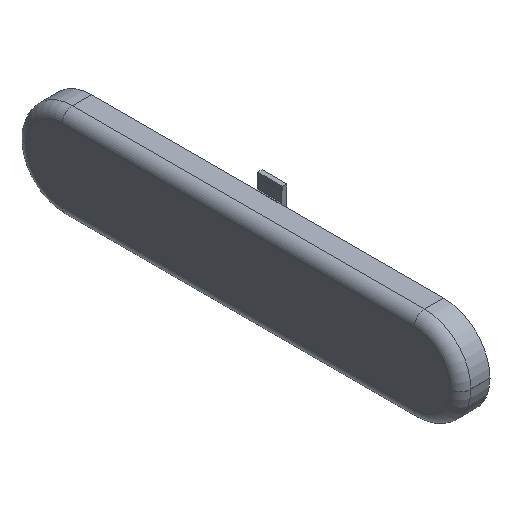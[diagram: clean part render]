
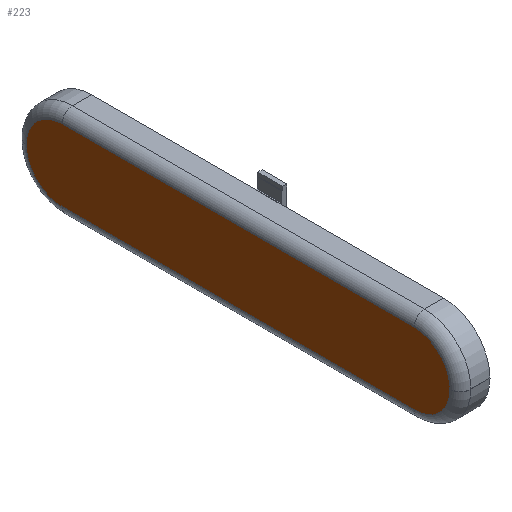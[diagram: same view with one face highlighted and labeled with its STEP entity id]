
A CAD part, isometric view. The second image highlights one B-rep face of the part: STEP entity #223.
In plain terms, the highlighted planar face has unit normal (-1, 0, 0).
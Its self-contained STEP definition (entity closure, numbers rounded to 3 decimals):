
#24 = VERTEX_POINT('',#25);
#25 = CARTESIAN_POINT('',(-46.8,28.51,5.8));
#33 = CYLINDRICAL_SURFACE('',#34,1.7);
#34 = AXIS2_PLACEMENT_3D('',#35,#36,#37);
#35 = CARTESIAN_POINT('',(-45.1,14.255,5.8));
#36 = DIRECTION('',(0.,-1.,0.));
#37 = DIRECTION('',(-0.707,0.,0.707));
#45 = TOROIDAL_SURFACE('',#46,5.79,1.7);
#46 = AXIS2_PLACEMENT_3D('',#47,#48,#49);
#47 = CARTESIAN_POINT('',(-45.1,28.51,0.01));
#48 = DIRECTION('',(1.,0.,0.));
#49 = DIRECTION('',(0.,0.,-1.));
#57 = EDGE_CURVE('',#24,#58,#60,.T.);
#58 = VERTEX_POINT('',#59);
#59 = CARTESIAN_POINT('',(-46.8,-28.51,5.8));
#60 = SURFACE_CURVE('',#61,(#65,#72),.PCURVE_S1.);
#61 = LINE('',#62,#63);
#62 = CARTESIAN_POINT('',(-46.8,14.255,5.8));
#63 = VECTOR('',#64,1.);
#64 = DIRECTION('',(0.,-1.,0.));
#65 = PCURVE('',#33,#66);
#66 = DEFINITIONAL_REPRESENTATION('',(#67),#71);
#67 = LINE('',#68,#69);
#68 = CARTESIAN_POINT('',(7.069,0.));
#69 = VECTOR('',#70,1.);
#70 = DIRECTION('',(0.,1.));
#71 = ( GEOMETRIC_REPRESENTATION_CONTEXT(2) 
PARAMETRIC_REPRESENTATION_CONTEXT() REPRESENTATION_CONTEXT('2D SPACE',''
  ) );
#72 = PCURVE('',#73,#78);
#73 = PLANE('',#74);
#74 = AXIS2_PLACEMENT_3D('',#75,#76,#77);
#75 = CARTESIAN_POINT('',(-46.8,0.,0.));
#76 = DIRECTION('',(1.,0.,0.));
#77 = DIRECTION('',(0.,0.,-1.));
#78 = DEFINITIONAL_REPRESENTATION('',(#79),#83);
#79 = LINE('',#80,#81);
#80 = CARTESIAN_POINT('',(-5.8,14.255));
#81 = VECTOR('',#82,1.);
#82 = DIRECTION('',(0.,-1.));
#83 = ( GEOMETRIC_REPRESENTATION_CONTEXT(2) 
PARAMETRIC_REPRESENTATION_CONTEXT() REPRESENTATION_CONTEXT('2D SPACE',''
  ) );
#102 = TOROIDAL_SURFACE('',#103,5.79,1.7);
#103 = AXIS2_PLACEMENT_3D('',#104,#105,#106);
#104 = CARTESIAN_POINT('',(-45.1,-28.51,0.01));
#105 = DIRECTION('',(1.,0.,0.));
#106 = DIRECTION('',(0.,0.,-1.));
#174 = VERTEX_POINT('',#175);
#175 = CARTESIAN_POINT('',(-46.8,34.3,0.01));
#190 = CYLINDRICAL_SURFACE('',#191,1.7);
#191 = AXIS2_PLACEMENT_3D('',#192,#193,#194);
#192 = CARTESIAN_POINT('',(-45.1,34.3,-0.005));
#193 = DIRECTION('',(0.,0.,1.));
#194 = DIRECTION('',(-0.707,0.707,0.));
#202 = EDGE_CURVE('',#174,#24,#203,.T.);
#203 = SURFACE_CURVE('',#204,(#209,#216),.PCURVE_S1.);
#204 = CIRCLE('',#205,5.79);
#205 = AXIS2_PLACEMENT_3D('',#206,#207,#208);
#206 = CARTESIAN_POINT('',(-46.8,28.51,0.01));
#207 = DIRECTION('',(1.,0.,0.));
#208 = DIRECTION('',(-0.,0.707,0.707));
#209 = PCURVE('',#45,#210);
#210 = DEFINITIONAL_REPRESENTATION('',(#211),#215);
#211 = LINE('',#212,#213);
#212 = CARTESIAN_POINT('',(-3.927,4.712));
#213 = VECTOR('',#214,1.);
#214 = DIRECTION('',(1.,0.));
#215 = ( GEOMETRIC_REPRESENTATION_CONTEXT(2) 
PARAMETRIC_REPRESENTATION_CONTEXT() REPRESENTATION_CONTEXT('2D SPACE',''
  ) );
#216 = PCURVE('',#73,#217);
#217 = DEFINITIONAL_REPRESENTATION('',(#218),#222);
#218 = CIRCLE('',#219,5.79);
#219 = AXIS2_PLACEMENT_2D('',#220,#221);
#220 = CARTESIAN_POINT('',(-0.01,28.51));
#221 = DIRECTION('',(-0.707,0.707));
#222 = ( GEOMETRIC_REPRESENTATION_CONTEXT(2) 
PARAMETRIC_REPRESENTATION_CONTEXT() REPRESENTATION_CONTEXT('2D SPACE',''
  ) );
#223 = ADVANCED_FACE('',(#224),#73,.F.);
#224 = FACE_BOUND('',#225,.T.);
#225 = EDGE_LOOP('',(#226,#227,#228,#251,#280,#308,#337,#365));
#226 = ORIENTED_EDGE('',*,*,#57,.F.);
#227 = ORIENTED_EDGE('',*,*,#202,.F.);
#228 = ORIENTED_EDGE('',*,*,#229,.F.);
#229 = EDGE_CURVE('',#230,#174,#232,.T.);
#230 = VERTEX_POINT('',#231);
#231 = CARTESIAN_POINT('',(-46.8,34.3,-0.01));
#232 = SURFACE_CURVE('',#233,(#237,#244),.PCURVE_S1.);
#233 = LINE('',#234,#235);
#234 = CARTESIAN_POINT('',(-46.8,34.3,-0.005));
#235 = VECTOR('',#236,1.);
#236 = DIRECTION('',(0.,0.,1.));
#237 = PCURVE('',#73,#238);
#238 = DEFINITIONAL_REPRESENTATION('',(#239),#243);
#239 = LINE('',#240,#241);
#240 = CARTESIAN_POINT('',(0.005,34.3));
#241 = VECTOR('',#242,1.);
#242 = DIRECTION('',(-1.,0.));
#243 = ( GEOMETRIC_REPRESENTATION_CONTEXT(2) 
PARAMETRIC_REPRESENTATION_CONTEXT() REPRESENTATION_CONTEXT('2D SPACE',''
  ) );
#244 = PCURVE('',#190,#245);
#245 = DEFINITIONAL_REPRESENTATION('',(#246),#250);
#246 = LINE('',#247,#248);
#247 = CARTESIAN_POINT('',(7.069,0.));
#248 = VECTOR('',#249,1.);
#249 = DIRECTION('',(0.,1.));
#250 = ( GEOMETRIC_REPRESENTATION_CONTEXT(2) 
PARAMETRIC_REPRESENTATION_CONTEXT() REPRESENTATION_CONTEXT('2D SPACE',''
  ) );
#251 = ORIENTED_EDGE('',*,*,#252,.F.);
#252 = EDGE_CURVE('',#253,#230,#255,.T.);
#253 = VERTEX_POINT('',#254);
#254 = CARTESIAN_POINT('',(-46.8,28.51,-5.8));
#255 = SURFACE_CURVE('',#256,(#261,#268),.PCURVE_S1.);
#256 = CIRCLE('',#257,5.79);
#257 = AXIS2_PLACEMENT_3D('',#258,#259,#260);
#258 = CARTESIAN_POINT('',(-46.8,28.51,-0.01));
#259 = DIRECTION('',(1.,0.,0.));
#260 = DIRECTION('',(0.,0.707,-0.707));
#261 = PCURVE('',#73,#262);
#262 = DEFINITIONAL_REPRESENTATION('',(#263),#267);
#263 = CIRCLE('',#264,5.79);
#264 = AXIS2_PLACEMENT_2D('',#265,#266);
#265 = CARTESIAN_POINT('',(0.01,28.51));
#266 = DIRECTION('',(0.707,0.707));
#267 = ( GEOMETRIC_REPRESENTATION_CONTEXT(2) 
PARAMETRIC_REPRESENTATION_CONTEXT() REPRESENTATION_CONTEXT('2D SPACE',''
  ) );
#268 = PCURVE('',#269,#274);
#269 = TOROIDAL_SURFACE('',#270,5.79,1.7);
#270 = AXIS2_PLACEMENT_3D('',#271,#272,#273);
#271 = CARTESIAN_POINT('',(-45.1,28.51,-0.01));
#272 = DIRECTION('',(1.,0.,0.));
#273 = DIRECTION('',(0.,0.,-1.));
#274 = DEFINITIONAL_REPRESENTATION('',(#275),#279);
#275 = LINE('',#276,#277);
#276 = CARTESIAN_POINT('',(-5.498,4.712));
#277 = VECTOR('',#278,1.);
#278 = DIRECTION('',(1.,0.));
#279 = ( GEOMETRIC_REPRESENTATION_CONTEXT(2) 
PARAMETRIC_REPRESENTATION_CONTEXT() REPRESENTATION_CONTEXT('2D SPACE',''
  ) );
#280 = ORIENTED_EDGE('',*,*,#281,.F.);
#281 = EDGE_CURVE('',#282,#253,#284,.T.);
#282 = VERTEX_POINT('',#283);
#283 = CARTESIAN_POINT('',(-46.8,-28.51,-5.8));
#284 = SURFACE_CURVE('',#285,(#289,#296),.PCURVE_S1.);
#285 = LINE('',#286,#287);
#286 = CARTESIAN_POINT('',(-46.8,-14.255,-5.8));
#287 = VECTOR('',#288,1.);
#288 = DIRECTION('',(0.,1.,0.));
#289 = PCURVE('',#73,#290);
#290 = DEFINITIONAL_REPRESENTATION('',(#291),#295);
#291 = LINE('',#292,#293);
#292 = CARTESIAN_POINT('',(5.8,-14.255));
#293 = VECTOR('',#294,1.);
#294 = DIRECTION('',(0.,1.));
#295 = ( GEOMETRIC_REPRESENTATION_CONTEXT(2) 
PARAMETRIC_REPRESENTATION_CONTEXT() REPRESENTATION_CONTEXT('2D SPACE',''
  ) );
#296 = PCURVE('',#297,#302);
#297 = CYLINDRICAL_SURFACE('',#298,1.7);
#298 = AXIS2_PLACEMENT_3D('',#299,#300,#301);
#299 = CARTESIAN_POINT('',(-45.1,-14.255,-5.8));
#300 = DIRECTION('',(0.,1.,0.));
#301 = DIRECTION('',(-0.707,0.,-0.707));
#302 = DEFINITIONAL_REPRESENTATION('',(#303),#307);
#303 = LINE('',#304,#305);
#304 = CARTESIAN_POINT('',(7.069,0.));
#305 = VECTOR('',#306,1.);
#306 = DIRECTION('',(0.,1.));
#307 = ( GEOMETRIC_REPRESENTATION_CONTEXT(2) 
PARAMETRIC_REPRESENTATION_CONTEXT() REPRESENTATION_CONTEXT('2D SPACE',''
  ) );
#308 = ORIENTED_EDGE('',*,*,#309,.F.);
#309 = EDGE_CURVE('',#310,#282,#312,.T.);
#310 = VERTEX_POINT('',#311);
#311 = CARTESIAN_POINT('',(-46.8,-34.3,-0.01));
#312 = SURFACE_CURVE('',#313,(#318,#325),.PCURVE_S1.);
#313 = CIRCLE('',#314,5.79);
#314 = AXIS2_PLACEMENT_3D('',#315,#316,#317);
#315 = CARTESIAN_POINT('',(-46.8,-28.51,-0.01));
#316 = DIRECTION('',(1.,0.,0.));
#317 = DIRECTION('',(0.,-0.707,-0.707));
#318 = PCURVE('',#73,#319);
#319 = DEFINITIONAL_REPRESENTATION('',(#320),#324);
#320 = CIRCLE('',#321,5.79);
#321 = AXIS2_PLACEMENT_2D('',#322,#323);
#322 = CARTESIAN_POINT('',(0.01,-28.51));
#323 = DIRECTION('',(0.707,-0.707));
#324 = ( GEOMETRIC_REPRESENTATION_CONTEXT(2) 
PARAMETRIC_REPRESENTATION_CONTEXT() REPRESENTATION_CONTEXT('2D SPACE',''
  ) );
#325 = PCURVE('',#326,#331);
#326 = TOROIDAL_SURFACE('',#327,5.79,1.7);
#327 = AXIS2_PLACEMENT_3D('',#328,#329,#330);
#328 = CARTESIAN_POINT('',(-45.1,-28.51,-0.01));
#329 = DIRECTION('',(1.,0.,0.));
#330 = DIRECTION('',(0.,0.,-1.));
#331 = DEFINITIONAL_REPRESENTATION('',(#332),#336);
#332 = LINE('',#333,#334);
#333 = CARTESIAN_POINT('',(-0.785,4.712));
#334 = VECTOR('',#335,1.);
#335 = DIRECTION('',(1.,0.));
#336 = ( GEOMETRIC_REPRESENTATION_CONTEXT(2) 
PARAMETRIC_REPRESENTATION_CONTEXT() REPRESENTATION_CONTEXT('2D SPACE',''
  ) );
#337 = ORIENTED_EDGE('',*,*,#338,.F.);
#338 = EDGE_CURVE('',#339,#310,#341,.T.);
#339 = VERTEX_POINT('',#340);
#340 = CARTESIAN_POINT('',(-46.8,-34.3,0.01));
#341 = SURFACE_CURVE('',#342,(#346,#353),.PCURVE_S1.);
#342 = LINE('',#343,#344);
#343 = CARTESIAN_POINT('',(-46.8,-34.3,0.005));
#344 = VECTOR('',#345,1.);
#345 = DIRECTION('',(0.,0.,-1.));
#346 = PCURVE('',#73,#347);
#347 = DEFINITIONAL_REPRESENTATION('',(#348),#352);
#348 = LINE('',#349,#350);
#349 = CARTESIAN_POINT('',(-0.005,-34.3));
#350 = VECTOR('',#351,1.);
#351 = DIRECTION('',(1.,0.));
#352 = ( GEOMETRIC_REPRESENTATION_CONTEXT(2) 
PARAMETRIC_REPRESENTATION_CONTEXT() REPRESENTATION_CONTEXT('2D SPACE',''
  ) );
#353 = PCURVE('',#354,#359);
#354 = CYLINDRICAL_SURFACE('',#355,1.7);
#355 = AXIS2_PLACEMENT_3D('',#356,#357,#358);
#356 = CARTESIAN_POINT('',(-45.1,-34.3,0.005));
#357 = DIRECTION('',(0.,0.,-1.));
#358 = DIRECTION('',(-0.707,-0.707,-0.));
#359 = DEFINITIONAL_REPRESENTATION('',(#360),#364);
#360 = LINE('',#361,#362);
#361 = CARTESIAN_POINT('',(7.069,0.));
#362 = VECTOR('',#363,1.);
#363 = DIRECTION('',(0.,1.));
#364 = ( GEOMETRIC_REPRESENTATION_CONTEXT(2) 
PARAMETRIC_REPRESENTATION_CONTEXT() REPRESENTATION_CONTEXT('2D SPACE',''
  ) );
#365 = ORIENTED_EDGE('',*,*,#366,.F.);
#366 = EDGE_CURVE('',#58,#339,#367,.T.);
#367 = SURFACE_CURVE('',#368,(#373,#380),.PCURVE_S1.);
#368 = CIRCLE('',#369,5.79);
#369 = AXIS2_PLACEMENT_3D('',#370,#371,#372);
#370 = CARTESIAN_POINT('',(-46.8,-28.51,0.01));
#371 = DIRECTION('',(1.,0.,0.));
#372 = DIRECTION('',(0.,-0.707,0.707));
#373 = PCURVE('',#73,#374);
#374 = DEFINITIONAL_REPRESENTATION('',(#375),#379);
#375 = CIRCLE('',#376,5.79);
#376 = AXIS2_PLACEMENT_2D('',#377,#378);
#377 = CARTESIAN_POINT('',(-0.01,-28.51));
#378 = DIRECTION('',(-0.707,-0.707));
#379 = ( GEOMETRIC_REPRESENTATION_CONTEXT(2) 
PARAMETRIC_REPRESENTATION_CONTEXT() REPRESENTATION_CONTEXT('2D SPACE',''
  ) );
#380 = PCURVE('',#102,#381);
#381 = DEFINITIONAL_REPRESENTATION('',(#382),#386);
#382 = LINE('',#383,#384);
#383 = CARTESIAN_POINT('',(-2.356,4.712));
#384 = VECTOR('',#385,1.);
#385 = DIRECTION('',(1.,0.));
#386 = ( GEOMETRIC_REPRESENTATION_CONTEXT(2) 
PARAMETRIC_REPRESENTATION_CONTEXT() REPRESENTATION_CONTEXT('2D SPACE',''
  ) );
